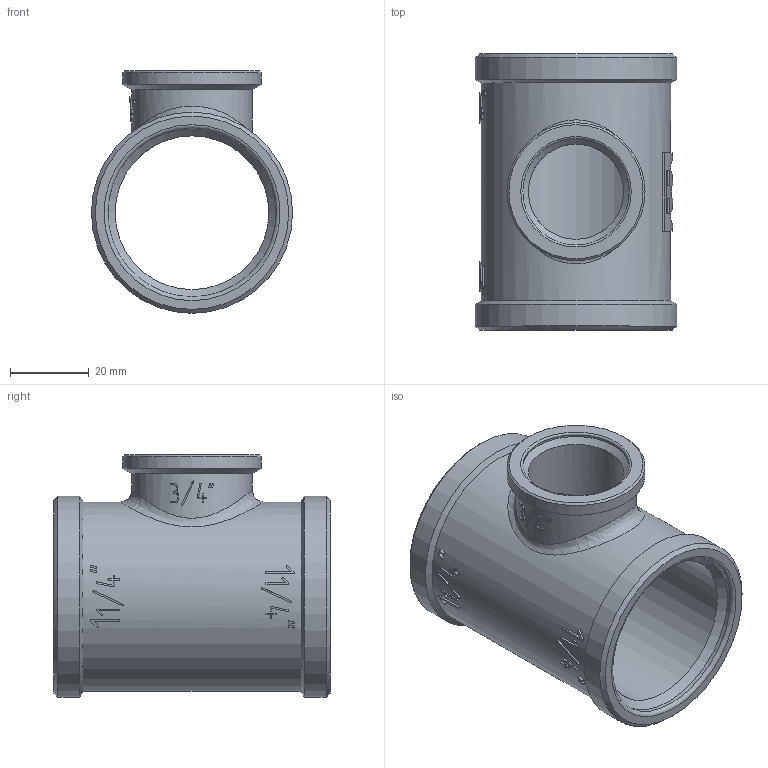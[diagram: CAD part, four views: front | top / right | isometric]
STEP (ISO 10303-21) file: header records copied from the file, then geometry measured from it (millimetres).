
FILE_DESCRIPTION(('STEP AP203'), '1');
FILE_NAME('ÂÐ.752243.011 - VTr.750.N.0705 - Ôèò. ðåçüá. òðîé', '2024-07-15T08:51:03', ('Boss'), (''), 'C3D Converter', 'C3D Toolkit', '');
FILE_SCHEMA(('CONFIG_CONTROL_DESIGN'));
Length unit declared in the file: millimetre
Products named in the file (1): ВР.752243.011
Bounding box: 51 x 70 x 61.5 mm (x, y, z)
Volume: 47589.8 mm3; surface area: 23007.4 mm2
Topology: 1 solids, 1 shells, 357 faces, 994 edges, 657 vertices
Faces by surface type: extrusion 195, plane 118, cylinder 31, cone 9, torus 3, bspline 1
Full cylindrical faces by diameter (mm): 24.118 x1, 27 x1, 30.5 x1, 35 x1, 38.953 x1, 42.6 x2, 48 x1, 51 x2
Entity records: 15823 total; most frequent: CARTESIAN_POINT 7845, ORIENTED_EDGE 1934, DIRECTION 1032, EDGE_CURVE 967, VERTEX_POINT 656, B_SPLINE_CURVE_WITH_KNOTS 589, VECTOR 566, EDGE_LOOP 405
